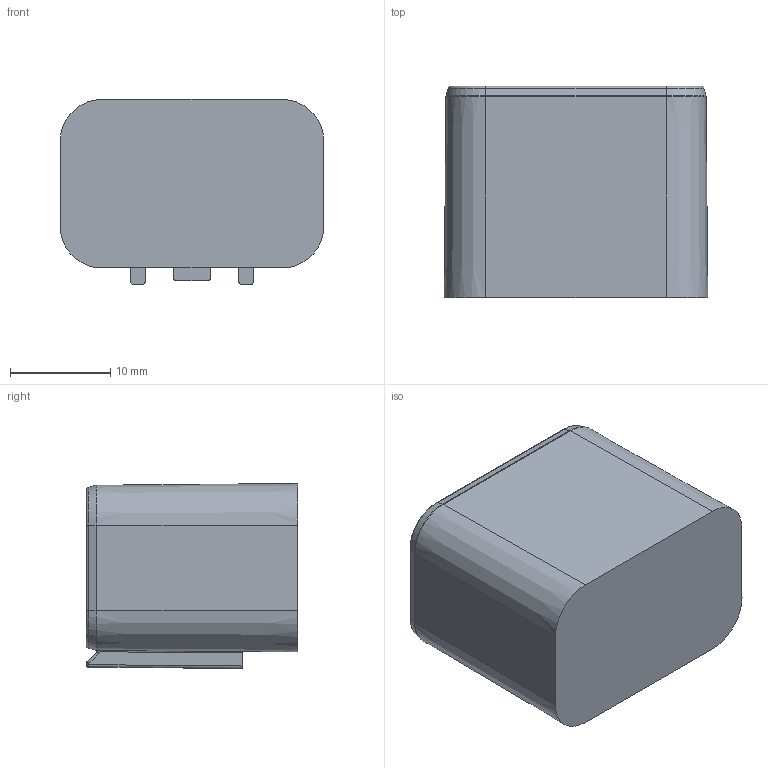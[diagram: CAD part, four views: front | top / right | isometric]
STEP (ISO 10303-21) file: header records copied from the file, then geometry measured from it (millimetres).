
FILE_DESCRIPTION(('CATIA V6 STEP','CAx-IF Rec.Pracs.--- Model Styling and Organization---1.5--- 2016-08-15','CAx-IF Rec.Pracs.---Supplemental Geometry---1.0---2011-11-01','CAx-IF Rec.Pracs.---Representation and Presentation of Product Manufacturing Information (PMI)---4.0---2014-10-13','CAx-IF Rec.Pracs.---User Defined Attributes---1.5---2016-08-15','CAx-IF Rec.Pracs.--- Composite Materials ---3.4---2017-06-13','CAx-IF Rec.Pracs.---Tessellated 3D Geometry---1.0---2015-12-17'),'2;1');
FILE_NAME('\\?\C:\root\24D718E80800000069409A27001B6D3A.stp','2025-12-23T00:54:42+00:00',('none'),('none'),'3DEXPERIENCE Platform3DEXPERIENCE R2021x HotFix 10','3DEXPERIENCE Platform STEP AP242 v2','none');
FILE_SCHEMA(('AP242_MANAGED_MODEL_BASED_3D_ENGINEERING_MIM_LF {1 0 10303 442 1 1 4}'));
Length unit declared in the file: millimetre
Products named in the file (1): LV CONN,4HP,INTERFACE
Bounding box: 26.33 x 21.1 x 18.48 mm (x, y, z)
Surface area: 16569.7 mm2
Topology: 4 solids, 4 shells, 1316 faces, 3094 edges, 1754 vertices
Faces by surface type: plane 500, cylinder 370, bspline 122, torus 120, cone 96, sphere 76, extrusion 32
Entity records: 43584 total; most frequent: CARTESIAN_POINT 16481, ORIENTED_EDGE 6036, DIRECTION 4496, EDGE_CURVE 3018, AXIS2_PLACEMENT_3D 1803, VERTEX_POINT 1754, VECTOR 1642, LINE 1610
